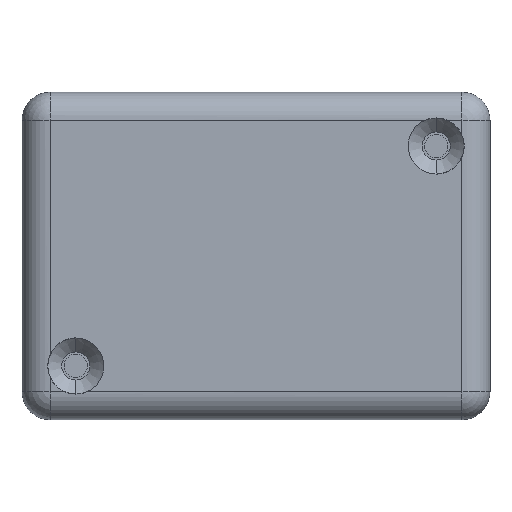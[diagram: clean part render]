
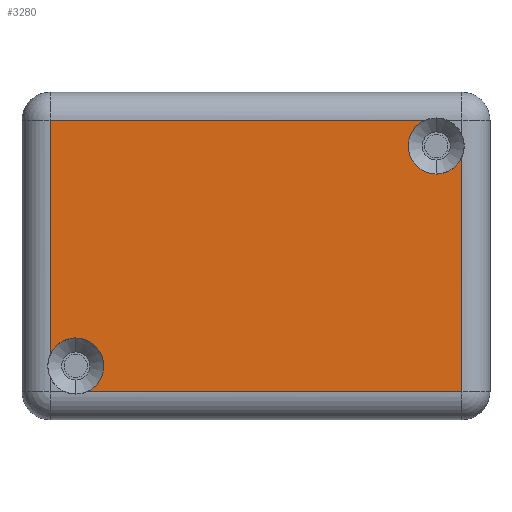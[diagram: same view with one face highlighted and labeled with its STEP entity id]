
A CAD part, front view. The second image highlights one B-rep face of the part: STEP entity #3280.
In plain terms, the highlighted planar face has unit normal (0, -1, 0).
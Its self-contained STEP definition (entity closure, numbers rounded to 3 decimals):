
#24 = LINE ( 'NONE', #2953, #3549 ) ;
#40 = VERTEX_POINT ( 'NONE', #3016 ) ;
#63 = ORIENTED_EDGE ( 'NONE', *, *, #660, .F. ) ;
#204 = EDGE_CURVE ( 'NONE', #1634, #2389, #367, .T. ) ;
#367 = CIRCLE ( 'NONE', #657, 3. ) ;
#373 = AXIS2_PLACEMENT_3D ( 'NONE', #2202, #510, #3373 ) ;
#474 = EDGE_LOOP ( 'NONE', ( #1012, #2559, #3764, #1558, #63, #1265, #2816, #969 ) ) ;
#488 = EDGE_CURVE ( 'NONE', #3380, #1447, #2474, .T. ) ;
#510 = DIRECTION ( 'NONE',  ( 0., -1., 0. ) ) ;
#657 = AXIS2_PLACEMENT_3D ( 'NONE', #1414, #3787, #3498 ) ;
#660 = EDGE_CURVE ( 'NONE', #40, #3454, #3177, .T. ) ;
#686 = CARTESIAN_POINT ( 'NONE',  ( 22., -3., -14.5 ) ) ;
#697 = CARTESIAN_POINT ( 'NONE',  ( -22., -3., -14.5 ) ) ;
#780 = EDGE_CURVE ( 'NONE', #2851, #2927, #24, .T. ) ;
#811 = DIRECTION ( 'NONE',  ( 0., -1., 0. ) ) ;
#887 = DIRECTION ( 'NONE',  ( 0., 0., 1. ) ) ;
#916 = CIRCLE ( 'NONE', #1902, 3. ) ;
#954 = DIRECTION ( 'NONE',  ( 0., 0., -1. ) ) ;
#962 = EDGE_CURVE ( 'NONE', #3454, #2927, #916, .T. ) ;
#969 = ORIENTED_EDGE ( 'NONE', *, *, #1115, .F. ) ;
#1012 = ORIENTED_EDGE ( 'NONE', *, *, #204, .F. ) ;
#1040 = DIRECTION ( 'NONE',  ( 0., -1., 0. ) ) ;
#1059 = DIRECTION ( 'NONE',  ( -1., 0., 0. ) ) ;
#1063 = CARTESIAN_POINT ( 'NONE',  ( 19.25, -3., 8.75 ) ) ;
#1115 = EDGE_CURVE ( 'NONE', #2389, #1447, #1604, .T. ) ;
#1255 = CARTESIAN_POINT ( 'NONE',  ( 22., -3., -14.5 ) ) ;
#1256 = DIRECTION ( 'NONE',  ( 0., 0., -1. ) ) ;
#1265 = ORIENTED_EDGE ( 'NONE', *, *, #1936, .T. ) ;
#1267 = CARTESIAN_POINT ( 'NONE',  ( 22., -3., -14.5 ) ) ;
#1361 = CARTESIAN_POINT ( 'NONE',  ( -22., -3., -10.551 ) ) ;
#1414 = CARTESIAN_POINT ( 'NONE',  ( -19.25, -3., -11.75 ) ) ;
#1447 = VERTEX_POINT ( 'NONE', #1361 ) ;
#1558 = ORIENTED_EDGE ( 'NONE', *, *, #962, .F. ) ;
#1604 = CIRCLE ( 'NONE', #373, 3. ) ;
#1634 = VERTEX_POINT ( 'NONE', #2920 ) ;
#1645 = FACE_OUTER_BOUND ( 'NONE', #474, .T. ) ;
#1693 = LINE ( 'NONE', #1709, #1917 ) ;
#1696 = CARTESIAN_POINT ( 'NONE',  ( -22., -3., 14.5 ) ) ;
#1709 = CARTESIAN_POINT ( 'NONE',  ( 22., -3., 14.5 ) ) ;
#1785 = AXIS2_PLACEMENT_3D ( 'NONE', #2815, #811, #2793 ) ;
#1902 = AXIS2_PLACEMENT_3D ( 'NONE', #2695, #3583, #954 ) ;
#1917 = VECTOR ( 'NONE', #1059, 1000. ) ;
#1936 = EDGE_CURVE ( 'NONE', #40, #3380, #1693, .T. ) ;
#2108 = LINE ( 'NONE', #1255, #2731 ) ;
#2202 = CARTESIAN_POINT ( 'NONE',  ( -19.25, -3., -11.75 ) ) ;
#2389 = VERTEX_POINT ( 'NONE', #3621 ) ;
#2474 = LINE ( 'NONE', #697, #3053 ) ;
#2559 = ORIENTED_EDGE ( 'NONE', *, *, #3146, .T. ) ;
#2695 = CARTESIAN_POINT ( 'NONE',  ( 19.25, -3., 11.75 ) ) ;
#2728 = PLANE ( 'NONE',  #3173 ) ;
#2731 = VECTOR ( 'NONE', #3219, 1000. ) ;
#2793 = DIRECTION ( 'NONE',  ( 0., 0., -1. ) ) ;
#2815 = CARTESIAN_POINT ( 'NONE',  ( 19.25, -3., 11.75 ) ) ;
#2816 = ORIENTED_EDGE ( 'NONE', *, *, #488, .T. ) ;
#2851 = VERTEX_POINT ( 'NONE', #686 ) ;
#2898 = CARTESIAN_POINT ( 'NONE',  ( 22., -3., 10.551 ) ) ;
#2920 = CARTESIAN_POINT ( 'NONE',  ( -18.051, -3., -14.5 ) ) ;
#2927 = VERTEX_POINT ( 'NONE', #2898 ) ;
#2953 = CARTESIAN_POINT ( 'NONE',  ( 22., -3., -14.5 ) ) ;
#3016 = CARTESIAN_POINT ( 'NONE',  ( 18.051, -3., 14.5 ) ) ;
#3053 = VECTOR ( 'NONE', #1256, 1000. ) ;
#3146 = EDGE_CURVE ( 'NONE', #1634, #2851, #2108, .T. ) ;
#3173 = AXIS2_PLACEMENT_3D ( 'NONE', #1267, #1040, #3604 ) ;
#3177 = CIRCLE ( 'NONE', #1785, 3. ) ;
#3219 = DIRECTION ( 'NONE',  ( 1., 0., 0. ) ) ;
#3280 = ADVANCED_FACE ( 'NONE', ( #1645 ), #2728, .T. ) ;
#3373 = DIRECTION ( 'NONE',  ( 0., 0., -1. ) ) ;
#3380 = VERTEX_POINT ( 'NONE', #1696 ) ;
#3454 = VERTEX_POINT ( 'NONE', #1063 ) ;
#3498 = DIRECTION ( 'NONE',  ( 0., 0., -1. ) ) ;
#3549 = VECTOR ( 'NONE', #887, 1000. ) ;
#3583 = DIRECTION ( 'NONE',  ( 0., -1., 0. ) ) ;
#3604 = DIRECTION ( 'NONE',  ( 0., 0., -1. ) ) ;
#3621 = CARTESIAN_POINT ( 'NONE',  ( -19.25, -3., -8.75 ) ) ;
#3764 = ORIENTED_EDGE ( 'NONE', *, *, #780, .T. ) ;
#3787 = DIRECTION ( 'NONE',  ( 0., -1., 0. ) ) ;
